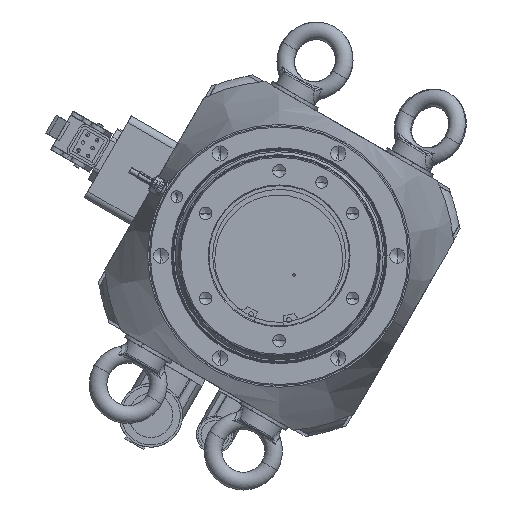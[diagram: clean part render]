
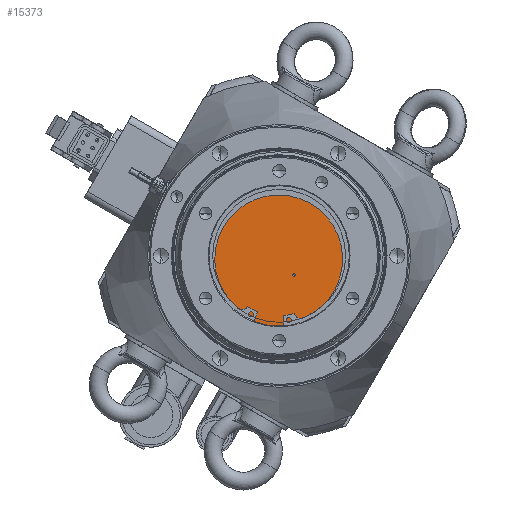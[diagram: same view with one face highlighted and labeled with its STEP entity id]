
A CAD part, front view. The second image highlights one B-rep face of the part: STEP entity #15373.
In plain terms, the highlighted planar face has unit normal (0, -1, 0).
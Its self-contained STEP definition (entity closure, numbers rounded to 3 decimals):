
#715 = VERTEX_POINT ( 'NONE', #14507 ) ;
#804 = DIRECTION ( 'NONE',  ( 0., 1., 0. ) ) ;
#2454 = AXIS2_PLACEMENT_3D ( 'NONE', #16980, #38943, #33586 ) ;
#6252 = CARTESIAN_POINT ( 'NONE',  ( 0., -49.5, 0. ) ) ;
#7536 = DIRECTION ( 'NONE',  ( -1., 0., 0. ) ) ;
#13454 = EDGE_CURVE ( 'NONE', #42216, #55152, #27597, .T. ) ;
#14507 = CARTESIAN_POINT ( 'NONE',  ( 8.993, -49.5, -12.971 ) ) ;
#15373 = ADVANCED_FACE ( 'NONE', ( #38091, #54691 ), #65843, .F. ) ;
#15726 = DIRECTION ( 'NONE',  ( 0., 1., 0. ) ) ;
#16463 = DIRECTION ( 'NONE',  ( -1., 0., 0. ) ) ;
#16670 = EDGE_LOOP ( 'NONE', ( #56700, #70151 ) ) ;
#16980 = CARTESIAN_POINT ( 'NONE',  ( 9.993, -49.5, -12.971 ) ) ;
#17398 = CARTESIAN_POINT ( 'NONE',  ( 9.993, -49.5, -12.971 ) ) ;
#17748 = DIRECTION ( 'NONE',  ( 0., 1., 0. ) ) ;
#22292 = CARTESIAN_POINT ( 'NONE',  ( 0., -49.5, 0. ) ) ;
#25760 = AXIS2_PLACEMENT_3D ( 'NONE', #6252, #804, #61703 ) ;
#26860 = CIRCLE ( 'NONE', #25760, 47.5 ) ;
#27597 = CIRCLE ( 'NONE', #65607, 47.5 ) ;
#28393 = DIRECTION ( 'NONE',  ( 0., 1., 0. ) ) ;
#28973 = ORIENTED_EDGE ( 'NONE', *, *, #32083, .T. ) ;
#30083 = VERTEX_POINT ( 'NONE', #54146 ) ;
#32083 = EDGE_CURVE ( 'NONE', #30083, #715, #57685, .T. ) ;
#33586 = DIRECTION ( 'NONE',  ( -1., 0., 0. ) ) ;
#38091 = FACE_OUTER_BOUND ( 'NONE', #16670, .T. ) ;
#38943 = DIRECTION ( 'NONE',  ( 0., 1., 0. ) ) ;
#39349 = DIRECTION ( 'NONE',  ( -1., 0., 0. ) ) ;
#42216 = VERTEX_POINT ( 'NONE', #46898 ) ;
#43949 = CIRCLE ( 'NONE', #63480, 1. ) ;
#46693 = EDGE_CURVE ( 'NONE', #55152, #42216, #26860, .T. ) ;
#46898 = CARTESIAN_POINT ( 'NONE',  ( 47.5, -49.5, 0. ) ) ;
#54146 = CARTESIAN_POINT ( 'NONE',  ( 10.993, -49.5, -12.971 ) ) ;
#54691 = FACE_BOUND ( 'NONE', #68746, .T. ) ;
#55152 = VERTEX_POINT ( 'NONE', #65017 ) ;
#56668 = AXIS2_PLACEMENT_3D ( 'NONE', #70605, #15726, #16463 ) ;
#56700 = ORIENTED_EDGE ( 'NONE', *, *, #13454, .F. ) ;
#57685 = CIRCLE ( 'NONE', #2454, 1. ) ;
#58313 = EDGE_CURVE ( 'NONE', #715, #30083, #43949, .T. ) ;
#61703 = DIRECTION ( 'NONE',  ( -1., 0., 0. ) ) ;
#63140 = ORIENTED_EDGE ( 'NONE', *, *, #58313, .T. ) ;
#63480 = AXIS2_PLACEMENT_3D ( 'NONE', #17398, #17748, #39349 ) ;
#65017 = CARTESIAN_POINT ( 'NONE',  ( -47.5, -49.5, 0. ) ) ;
#65607 = AXIS2_PLACEMENT_3D ( 'NONE', #22292, #28393, #7536 ) ;
#65843 = PLANE ( 'NONE',  #56668 ) ;
#68746 = EDGE_LOOP ( 'NONE', ( #28973, #63140 ) ) ;
#70151 = ORIENTED_EDGE ( 'NONE', *, *, #46693, .F. ) ;
#70605 = CARTESIAN_POINT ( 'NONE',  ( 0., -49.5, 0. ) ) ;
